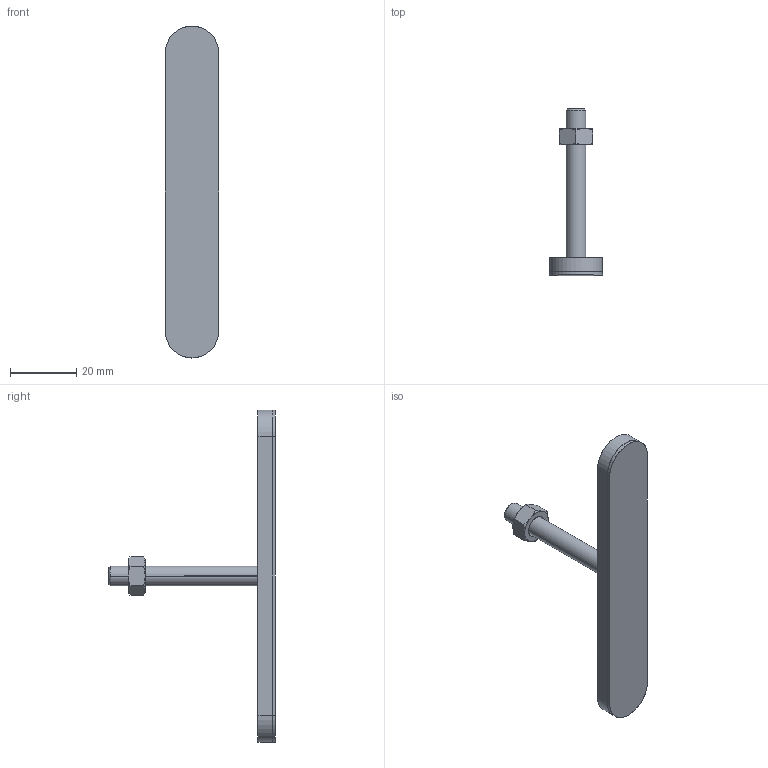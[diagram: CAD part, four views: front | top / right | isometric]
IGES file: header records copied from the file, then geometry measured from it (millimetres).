
Start section: SolidWorks IGES file using analytic representation for surfaces
Global section: file name: C:\Projetos\Ponteiras\PF\PF-M6 - 51x100.IGS; native system: SolidWorks 2014; preprocessor: SolidWorks 2014; author: Ricardo; date: 150721.091839; units: millimetre
Bounding box: 16 x 50.25 x 100 mm (x, y, z)
Surface area: 8813.4 mm2 (no closed solid volume)
Topology: 0 solids, 0 shells, 63 faces, 720 edges, 720 vertices
Faces by surface type: revolution 32, bspline 31
